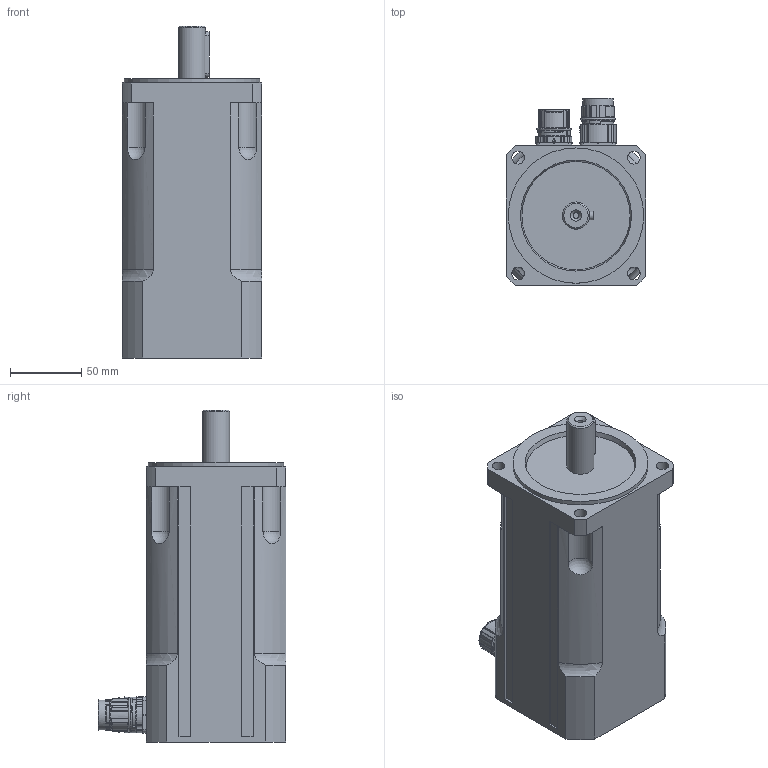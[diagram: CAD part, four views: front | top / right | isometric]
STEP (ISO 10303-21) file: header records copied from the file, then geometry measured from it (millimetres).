
FILE_DESCRIPTION(/* description */ (''),/* implementation_level */ '2;1');
FILE_NAME(/* name */ 'C:\PDF_output\T4000 00 BP Z_0390.stp',/* time_stamp */ '2014-10-29T08:39:53+01:00',/* author */ ('oslejsek'),/* organization */ (''),/* preprocessor_version */ 'ST-DEVELOPER v15.6',/* originating_system */ 'Autodesk Inventor 2015',/* authorisation */ '');
FILE_SCHEMA (('AUTOMOTIVE_DESIGN { 1 0 10303 214 3 1 1 }'));
Length unit declared in the file: millimetre
Products named in the file (4): T4000 00 BP_0390; AEG_0201 12-pol; BEG_0200-8-polig; T4000 00 BP Z_0390
Assembly tree (3 placements, depth 2):
  T4000 00 BP Z_0390
    T4000 00 BP_0390
    AEG_0201 12-pol
    BEG_0200-8-polig
Bounding box: 98 x 131.75 x 233 mm (x, y, z)
Volume: 1745240.9 mm3; surface area: 107054.4 mm2
Topology: 3 solids, 3 shells, 1010 faces, 2619 edges, 1666 vertices
Faces by surface type: cylinder 340, plane 299, bspline 164, torus 113, cone 63, sphere 31
Full cylindrical faces by diameter (mm): 1 x16, 1.18 x12, 1.3 x4, 2 x4, 2.15 x4, 2.7 x8, 3 x4, 4.134 x1, 5.8 x1, 6.8 x1, 9 x4, 17.1 x1, 17.4 x1, 17.7 x1, 19 x1, 19.8 x1, 20 x2, 21.15 x2, 21.5 x1, 21.6 x1, 95 x1
Entity records: 37500 total; most frequent: CARTESIAN_POINT 12997, DIRECTION 4924, ORIENTED_EDGE 4808, EDGE_CURVE 2404, AXIS2_PLACEMENT_3D 2046, VERTEX_POINT 1583, EDGE_LOOP 1209, CIRCLE 1107
